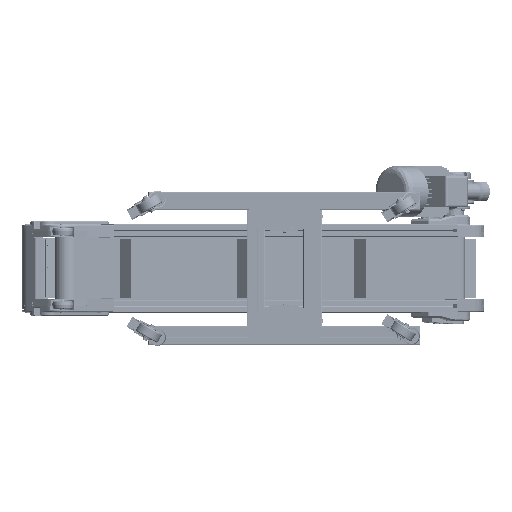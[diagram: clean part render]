
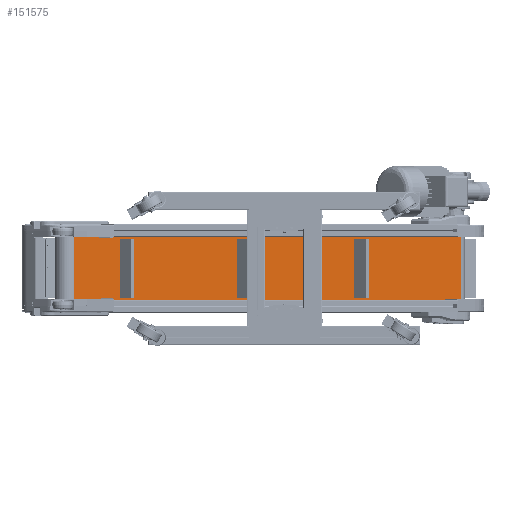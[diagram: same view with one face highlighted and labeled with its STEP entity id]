
A CAD part, front view. The second image highlights one B-rep face of the part: STEP entity #151575.
In plain terms, the highlighted planar face has unit normal (0.707, -0.707, 0).
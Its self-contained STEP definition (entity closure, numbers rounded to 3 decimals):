
#2852 = EDGE_CURVE ( 'NONE', #248585, #33981, #53731, .T. ) ;
#6246 = CARTESIAN_POINT ( 'NONE',  ( 546.163, -12.021, -96.5 ) ) ;
#29045 = ORIENTED_EDGE ( 'NONE', *, *, #2852, .T. ) ;
#32722 = VECTOR ( 'NONE', #85111, 1000. ) ;
#33147 = ORIENTED_EDGE ( 'NONE', *, *, #74676, .T. ) ;
#33981 = VERTEX_POINT ( 'NONE', #6246 ) ;
#36532 = PLANE ( 'NONE',  #75879 ) ;
#37860 = DIRECTION ( 'NONE',  ( -0.707, -0.707, 0. ) ) ;
#53731 = LINE ( 'NONE', #158979, #204566 ) ;
#62178 = CARTESIAN_POINT ( 'NONE',  ( 1479.544, 921.36, 96.5 ) ) ;
#72746 = CARTESIAN_POINT ( 'NONE',  ( 1479.544, 921.36, 96.5 ) ) ;
#74308 = LINE ( 'NONE', #197206, #193464 ) ;
#74676 = EDGE_CURVE ( 'NONE', #33981, #250723, #107718, .T. ) ;
#75879 = AXIS2_PLACEMENT_3D ( 'NONE', #143078, #122830, #37860 ) ;
#76619 = DIRECTION ( 'NONE',  ( 0., 0., -1. ) ) ;
#85007 = VECTOR ( 'NONE', #190049, 1000. ) ;
#85111 = DIRECTION ( 'NONE',  ( 0., 0., -1. ) ) ;
#107718 = LINE ( 'NONE', #169811, #85007 ) ;
#117512 = DIRECTION ( 'NONE',  ( 0.707, 0.707, 0. ) ) ;
#122830 = DIRECTION ( 'NONE',  ( -0.707, 0.707, 0. ) ) ;
#136397 = EDGE_CURVE ( 'NONE', #248585, #166267, #74308, .T. ) ;
#140570 = LINE ( 'NONE', #62178, #32722 ) ;
#143078 = CARTESIAN_POINT ( 'NONE',  ( 1479.544, 921.36, 96.5 ) ) ;
#151575 = ADVANCED_FACE ( 'NONE', ( #180950 ), #36532, .F. ) ;
#158979 = CARTESIAN_POINT ( 'NONE',  ( 546.163, -12.021, 96.5 ) ) ;
#166267 = VERTEX_POINT ( 'NONE', #72746 ) ;
#169811 = CARTESIAN_POINT ( 'NONE',  ( 1479.544, 921.36, -96.5 ) ) ;
#179539 = CARTESIAN_POINT ( 'NONE',  ( 546.163, -12.021, 96.5 ) ) ;
#180950 = FACE_OUTER_BOUND ( 'NONE', #231855, .T. ) ;
#182772 = ORIENTED_EDGE ( 'NONE', *, *, #199395, .F. ) ;
#182913 = CARTESIAN_POINT ( 'NONE',  ( 1479.544, 921.36, -96.5 ) ) ;
#190049 = DIRECTION ( 'NONE',  ( 0.707, 0.707, 0. ) ) ;
#193464 = VECTOR ( 'NONE', #117512, 1000. ) ;
#197206 = CARTESIAN_POINT ( 'NONE',  ( 1479.544, 921.36, 96.5 ) ) ;
#199395 = EDGE_CURVE ( 'NONE', #166267, #250723, #140570, .T. ) ;
#204566 = VECTOR ( 'NONE', #76619, 1000. ) ;
#231855 = EDGE_LOOP ( 'NONE', ( #33147, #182772, #263622, #29045 ) ) ;
#248585 = VERTEX_POINT ( 'NONE', #179539 ) ;
#250723 = VERTEX_POINT ( 'NONE', #182913 ) ;
#263622 = ORIENTED_EDGE ( 'NONE', *, *, #136397, .F. ) ;
